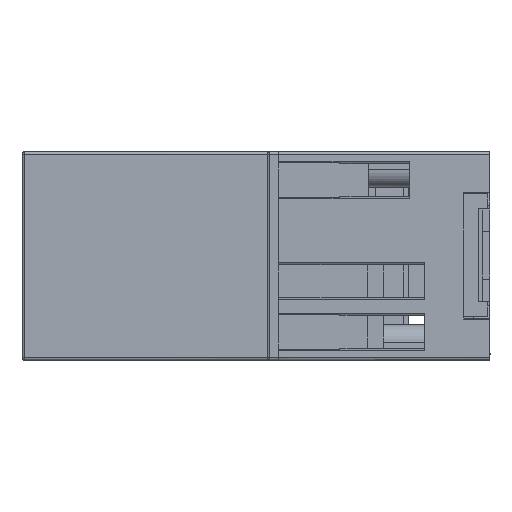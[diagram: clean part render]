
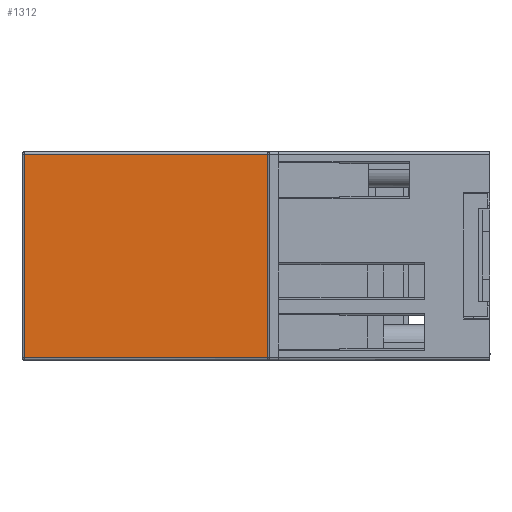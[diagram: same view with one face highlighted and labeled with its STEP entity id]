
A CAD part, left-side view. The second image highlights one B-rep face of the part: STEP entity #1312.
In plain terms, the highlighted planar face has unit normal (-1, 0, 0).
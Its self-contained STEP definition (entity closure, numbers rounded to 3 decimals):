
#831=CIRCLE('',#24437,0.3);
#832=CIRCLE('',#24438,0.3);
#1312=ADVANCED_FACE('',(#3607),#2562,.T.);
#2562=PLANE('',#24439);
#3607=FACE_OUTER_BOUND('',#4774,.T.);
#4774=EDGE_LOOP('',(#7665,#7666,#7667,#7668,#7669,#7670,#7671,#7672,#7673,
#7674));
#7665=ORIENTED_EDGE('',*,*,#16294,.T.);
#7666=ORIENTED_EDGE('',*,*,#16295,.T.);
#7667=ORIENTED_EDGE('',*,*,#16296,.T.);
#7668=ORIENTED_EDGE('',*,*,#16297,.F.);
#7669=ORIENTED_EDGE('',*,*,#16298,.T.);
#7670=ORIENTED_EDGE('',*,*,#15502,.T.);
#7671=ORIENTED_EDGE('',*,*,#16299,.T.);
#7672=ORIENTED_EDGE('',*,*,#16300,.T.);
#7673=ORIENTED_EDGE('',*,*,#16301,.F.);
#7674=ORIENTED_EDGE('',*,*,#16302,.T.);
#13225=VERTEX_POINT('',#33061);
#13230=VERTEX_POINT('',#33070);
#13832=VERTEX_POINT('',#34657);
#13833=VERTEX_POINT('',#34658);
#13834=VERTEX_POINT('',#34660);
#13835=VERTEX_POINT('',#34662);
#13836=VERTEX_POINT('',#34664);
#13837=VERTEX_POINT('',#34667);
#13838=VERTEX_POINT('',#34669);
#13839=VERTEX_POINT('',#34671);
#15502=EDGE_CURVE('',#13225,#13230,#18825,.T.);
#16294=EDGE_CURVE('',#13832,#13833,#19559,.T.);
#16295=EDGE_CURVE('',#13833,#13834,#19560,.T.);
#16296=EDGE_CURVE('',#13834,#13835,#19561,.T.);
#16297=EDGE_CURVE('',#13836,#13835,#19562,.T.);
#16298=EDGE_CURVE('',#13836,#13225,#831,.T.);
#16299=EDGE_CURVE('',#13230,#13837,#832,.T.);
#16300=EDGE_CURVE('',#13837,#13838,#19563,.T.);
#16301=EDGE_CURVE('',#13839,#13838,#19564,.T.);
#16302=EDGE_CURVE('',#13839,#13832,#19565,.T.);
#18825=LINE('',#33071,#21740);
#19559=LINE('',#34656,#22474);
#19560=LINE('',#34659,#22475);
#19561=LINE('',#34661,#22476);
#19562=LINE('',#34663,#22477);
#19563=LINE('',#34668,#22478);
#19564=LINE('',#34670,#22479);
#19565=LINE('',#34672,#22480);
#21740=VECTOR('',#26480,1.);
#22474=VECTOR('',#27614,1.);
#22475=VECTOR('',#27615,1.);
#22476=VECTOR('',#27616,1.);
#22477=VECTOR('',#27617,1.);
#22478=VECTOR('',#27622,1.);
#22479=VECTOR('',#27623,1.);
#22480=VECTOR('',#27624,1.);
#24437=AXIS2_PLACEMENT_3D('',#34665,#27618,#27619);
#24438=AXIS2_PLACEMENT_3D('',#34666,#27620,#27621);
#24439=AXIS2_PLACEMENT_3D('',#34673,#27625,#27626);
#26480=DIRECTION('',(0.,0.,1.));
#27614=DIRECTION('',(0.,0.,-1.));
#27615=DIRECTION('',(0.,-1.,0.));
#27616=DIRECTION('',(0.,0.,1.));
#27617=DIRECTION('',(0.,-1.,0.));
#27618=DIRECTION('',(1.,0.,0.));
#27619=DIRECTION('',(0.,-1.,0.));
#27620=DIRECTION('',(1.,0.,0.));
#27621=DIRECTION('',(0.,-1.,0.));
#27622=DIRECTION('',(0.,-1.,0.));
#27623=DIRECTION('',(0.,0.,-1.));
#27624=DIRECTION('',(0.,1.,0.));
#27625=DIRECTION('',(-1.,0.,0.));
#27626=DIRECTION('',(0.,-1.,0.));
#33061=CARTESIAN_POINT('',(-18.588,29.1,-10.6));
#33070=CARTESIAN_POINT('',(-18.588,29.1,10.6));
#33071=CARTESIAN_POINT('',(-18.588,29.1,-13.6));
#34656=CARTESIAN_POINT('',(-18.588,60.8,-13.6));
#34657=CARTESIAN_POINT('',(-18.588,60.8,13.3));
#34658=CARTESIAN_POINT('',(-18.588,60.8,-13.3));
#34659=CARTESIAN_POINT('',(-18.588,61.1,-13.3));
#34660=CARTESIAN_POINT('',(-18.588,22.1,-13.3));
#34661=CARTESIAN_POINT('',(-18.588,22.1,-10.9));
#34662=CARTESIAN_POINT('',(-18.588,22.1,-10.9));
#34663=CARTESIAN_POINT('',(-18.588,29.1,-10.9));
#34664=CARTESIAN_POINT('',(-18.588,28.8,-10.9));
#34665=CARTESIAN_POINT('',(-18.588,28.8,-10.6));
#34666=CARTESIAN_POINT('',(-18.588,28.8,10.6));
#34667=CARTESIAN_POINT('',(-18.588,28.8,10.9));
#34668=CARTESIAN_POINT('',(-18.588,29.1,10.9));
#34669=CARTESIAN_POINT('',(-18.588,22.1,10.9));
#34670=CARTESIAN_POINT('',(-18.588,22.1,10.9));
#34671=CARTESIAN_POINT('',(-18.588,22.1,13.3));
#34672=CARTESIAN_POINT('',(-18.588,61.1,13.3));
#34673=CARTESIAN_POINT('',(-18.588,61.1,-13.6));
